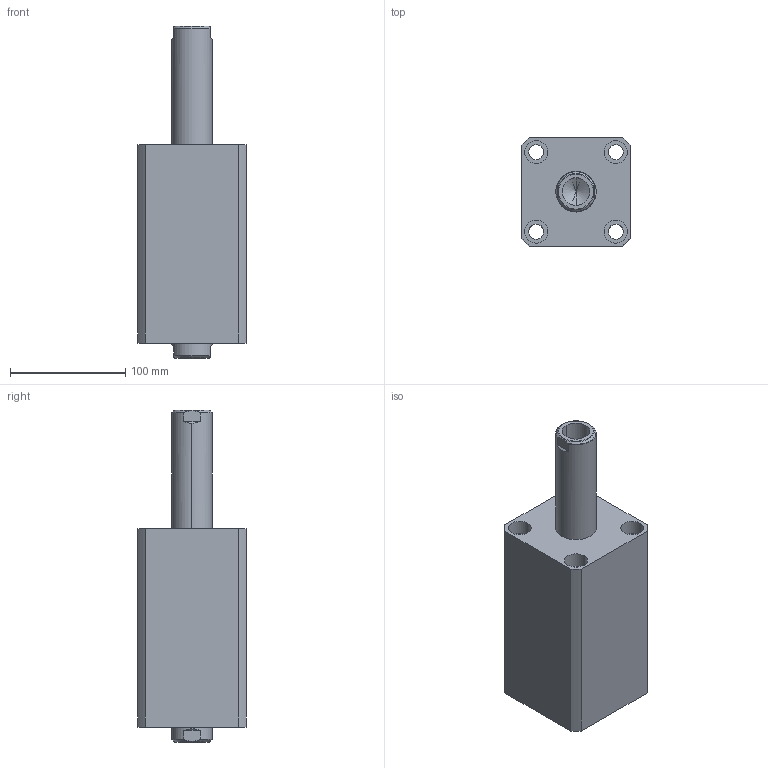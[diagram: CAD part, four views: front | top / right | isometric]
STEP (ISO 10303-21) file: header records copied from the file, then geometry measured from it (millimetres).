
FILE_DESCRIPTION (( 'STEP AP214' ), '1' );
FILE_NAME ('chtb-sw63x90n_asm.STEP', '2018-05-12T02:22:37', ( 'Windows' ), ( 'Microsoft' ), 'SwSTEP 2.0', 'SolidWorks 2015', '' );
FILE_SCHEMA (( 'AUTOMOTIVE_DESIGN' ));
Length unit declared in the file: millimetre
Products named in the file (4): CHTB-SW63X90NBT; CHTB-63QG; chtb-sw63x90n_asm; CHTB-SW63X90NHSG
Assembly tree (3 placements, depth 2):
  chtb-sw63x90n_asm
    CHTB-63QG
    CHTB-SW63X90NBT
    CHTB-SW63X90NHSG
Bounding box: 94 x 94 x 288 mm (x, y, z)
Volume: 1287167.9 mm3; surface area: 203831.5 mm2
Topology: 3 solids, 3 shells, 184 faces, 515 edges, 349 vertices
Faces by surface type: cylinder 106, plane 38, cone 16, bspline 12, torus 12
Entity records: 18385 total; most frequent: CARTESIAN_POINT 13775, ORIENTED_EDGE 1014, DIRECTION 814, EDGE_CURVE 507, VERTEX_POINT 349, AXIS2_PLACEMENT_3D 331, EDGE_LOOP 220, FACE_OUTER_BOUND 184
